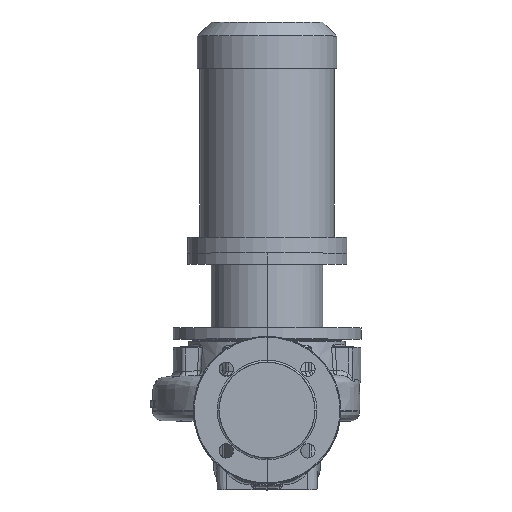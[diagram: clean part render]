
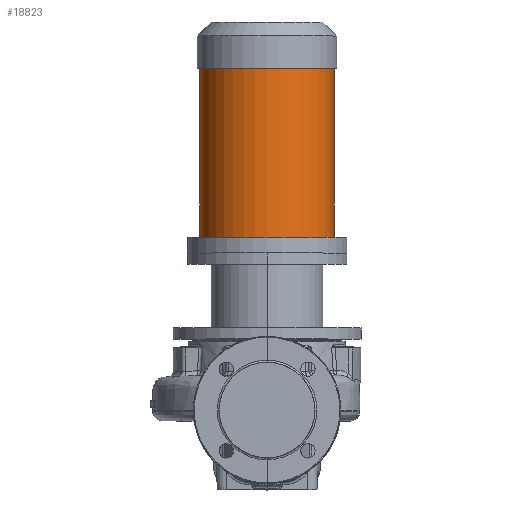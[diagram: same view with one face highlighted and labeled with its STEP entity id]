
A CAD part, top view. The second image highlights one B-rep face of the part: STEP entity #18823.
In plain terms, the highlighted cylindrical face has radius 84.5 mm (diameter 169 mm), a partial arc.
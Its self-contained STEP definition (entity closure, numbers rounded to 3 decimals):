
#124 = AXIS2_PLACEMENT_3D ( 'NONE', #34490, #1080, #6787 ) ;
#1080 = DIRECTION ( 'NONE',  ( 0., -1., 0. ) ) ;
#6787 = DIRECTION ( 'NONE',  ( -1., 0., 0. ) ) ;
#6823 = CARTESIAN_POINT ( 'NONE',  ( 84.5, 217.3, 0. ) ) ;
#11307 = EDGE_CURVE ( 'NONE', #13893, #26431, #69262, .T. ) ;
#13351 = CARTESIAN_POINT ( 'NONE',  ( 84.5, 197.3, 0. ) ) ;
#13893 = VERTEX_POINT ( 'NONE', #59705 ) ;
#15389 = LINE ( 'NONE', #13351, #17114 ) ;
#17114 = VECTOR ( 'NONE', #35562, 1000. ) ;
#17427 = AXIS2_PLACEMENT_3D ( 'NONE', #33508, #54536, #28294 ) ;
#18662 = ORIENTED_EDGE ( 'NONE', *, *, #22742, .T. ) ;
#18823 = ADVANCED_FACE ( 'NONE', ( #46234 ), #43663, .T. ) ;
#19715 = CARTESIAN_POINT ( 'NONE',  ( -84.5, 197.3, 0. ) ) ;
#20172 = ORIENTED_EDGE ( 'NONE', *, *, #38840, .F. ) ;
#22742 = EDGE_CURVE ( 'NONE', #26431, #60818, #24614, .T. ) ;
#24614 = LINE ( 'NONE', #19715, #33132 ) ;
#25642 = VERTEX_POINT ( 'NONE', #6823 ) ;
#26431 = VERTEX_POINT ( 'NONE', #43555 ) ;
#28294 = DIRECTION ( 'NONE',  ( -1., 0., 0. ) ) ;
#28340 = EDGE_CURVE ( 'NONE', #13893, #25642, #15389, .T. ) ;
#30990 = AXIS2_PLACEMENT_3D ( 'NONE', #56035, #56274, #35241 ) ;
#33132 = VECTOR ( 'NONE', #46035, 1000. ) ;
#33508 = CARTESIAN_POINT ( 'NONE',  ( 0., 217.3, 0. ) ) ;
#34490 = CARTESIAN_POINT ( 'NONE',  ( 0., 429.3, 0. ) ) ;
#35241 = DIRECTION ( 'NONE',  ( -1., 0., 0. ) ) ;
#35562 = DIRECTION ( 'NONE',  ( 0., -1., 0. ) ) ;
#38405 = ORIENTED_EDGE ( 'NONE', *, *, #28340, .F. ) ;
#38840 = EDGE_CURVE ( 'NONE', #25642, #60818, #63172, .T. ) ;
#43555 = CARTESIAN_POINT ( 'NONE',  ( -84.5, 429.3, 0. ) ) ;
#43663 = CYLINDRICAL_SURFACE ( 'NONE', #30990, 84.5 ) ;
#46035 = DIRECTION ( 'NONE',  ( 0., -1., 0. ) ) ;
#46234 = FACE_OUTER_BOUND ( 'NONE', #63790, .T. ) ;
#47720 = CARTESIAN_POINT ( 'NONE',  ( -84.5, 217.3, 0. ) ) ;
#54536 = DIRECTION ( 'NONE',  ( 0., -1., 0. ) ) ;
#56035 = CARTESIAN_POINT ( 'NONE',  ( 0., 197.3, 0. ) ) ;
#56274 = DIRECTION ( 'NONE',  ( 0., -1., 0. ) ) ;
#59705 = CARTESIAN_POINT ( 'NONE',  ( 84.5, 429.3, 0. ) ) ;
#60818 = VERTEX_POINT ( 'NONE', #47720 ) ;
#63172 = CIRCLE ( 'NONE', #17427, 84.5 ) ;
#63276 = ORIENTED_EDGE ( 'NONE', *, *, #11307, .T. ) ;
#63790 = EDGE_LOOP ( 'NONE', ( #38405, #63276, #18662, #20172 ) ) ;
#69262 = CIRCLE ( 'NONE', #124, 84.5 ) ;
